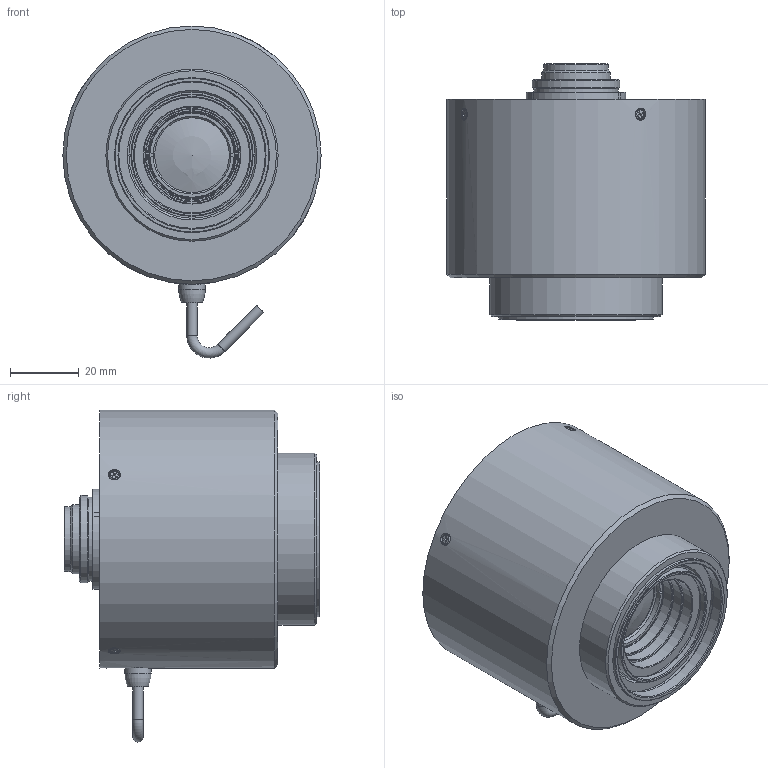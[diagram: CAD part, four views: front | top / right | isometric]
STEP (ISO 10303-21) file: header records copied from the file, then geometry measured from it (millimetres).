
FILE_DESCRIPTION(/* description */ ('Unknown'),/* implementation_level */ '2;1');
FILE_NAME(/* name */ 'VL3522U-MPZ_210607',/* time_stamp */ '2021-06-07T16:22:15+09:00',/* author */ ('Unknown'),/* organization */ ('Unknown'),/* preprocessor_version */ 'ST-DEVELOPER v16.7',/* originating_system */ 'DEX',/* authorisation */ $);
FILE_SCHEMA (('AUTOMOTIVE_DESIGN {1 0 10303 214 3 1 1}'));
Length unit declared in the file: millimetre
Products named in the file (1): VL3522U-MPZ
Bounding box: 75 x 74.3 x 96.39 mm (x, y, z)
Volume: 244254.3 mm3; surface area: 26605.9 mm2
Topology: 1 solids, 13 shells, 420 faces, 1032 edges, 684 vertices
Faces by surface type: plane 284, cylinder 84, cone 39, torus 11, sphere 2
Full cylindrical faces by diameter (mm): 1.7 x3, 1.8 x3, 2 x9, 2.2 x9, 3 x14, 3.5 x4, 3.6 x1, 4 x4, 7.699 x1, 17.313 x1, 18.8 x1, 20.013 x1, 21.7 x1, 22.6 x1, 23 x1, 24.4 x1, 25.4 x2, 26.7 x1, 28 x1, 33.5 x1, 34 x1, 35.5 x1, 42.5 x1, 43 x1, 44 x1, 45 x1, 50 x1, 75 x1
Entity records: 14382 total; most frequent: CARTESIAN_POINT 2091, DIRECTION 1891, ORIENTED_EDGE 1732, EDGE_CURVE 866, LINE 637, VECTOR 637, VERTEX_POINT 630, AXIS2_PLACEMENT_3D 627
